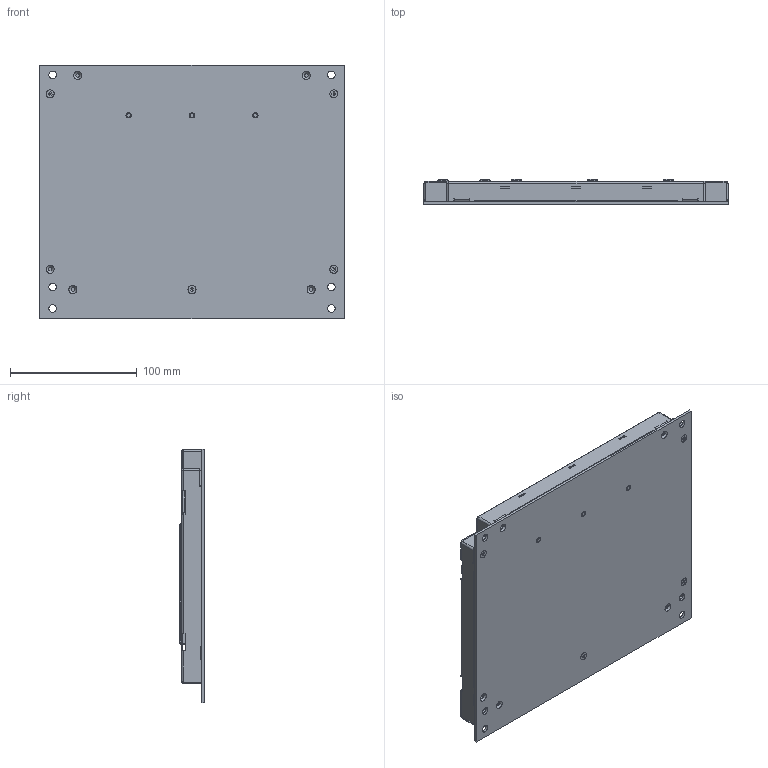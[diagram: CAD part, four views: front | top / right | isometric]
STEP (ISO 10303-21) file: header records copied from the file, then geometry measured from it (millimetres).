
FILE_DESCRIPTION (( 'STEP AP203' ), '1' );
FILE_NAME ('extern3d_09-402-031_MDM031_20110329.STEP', '2011-03-29T11:41:04', ( 'Anwender' ), ( 'SIGMATEK GMBH & CO KG' ), 'SwSTEP 2.0', 'SolidWorks 2009', '' );
FILE_SCHEMA (( 'CONFIG_CONTROL_DESIGN' ));
Length unit declared in the file: millimetre
Products named in the file (1): extern3d_09-402-031_MDM031_20110329
Bounding box: 240 x 19.6 x 200 mm (x, y, z)
Volume: 288076.1 mm3; surface area: 379521.2 mm2
Topology: 56 solids, 56 shells, 3242 faces, 8674 edges, 5603 vertices
Faces by surface type: plane 2180, cylinder 742, cone 160, bspline 92, torus 68
Entity records: 104707 total; most frequent: CARTESIAN_POINT 21622, ORIENTED_EDGE 17336, DIRECTION 16878, EDGE_CURVE 8668, VECTOR 6476, LINE 6476, VERTEX_POINT 5603, AXIS2_PLACEMENT_3D 5201
